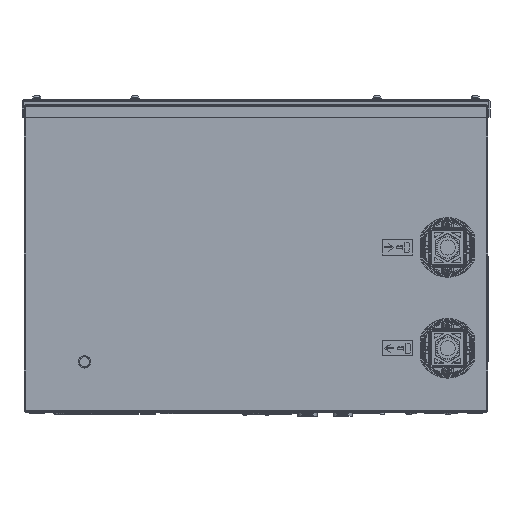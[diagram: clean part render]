
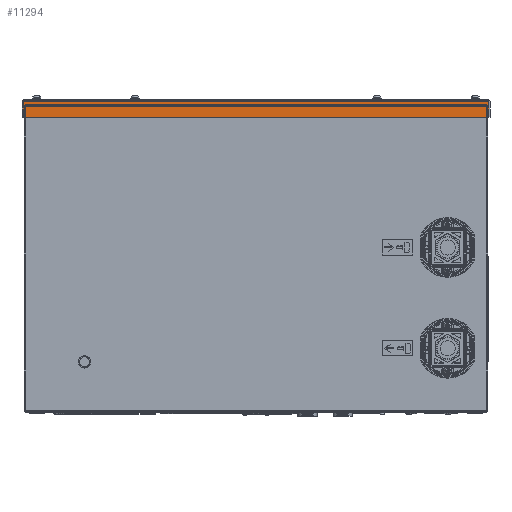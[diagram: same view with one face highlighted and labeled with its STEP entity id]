
A CAD part, front view. The second image highlights one B-rep face of the part: STEP entity #11294.
In plain terms, the highlighted planar face has unit normal (0, -1, 0) as drawn and (1, 0, 0) by its records, which use the part's own axes.
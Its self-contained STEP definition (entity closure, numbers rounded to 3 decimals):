
#652 = EDGE_CURVE ( 'NONE', #661, #660, #112255, .T. ) ;
#660 = VERTEX_POINT ( 'NONE', #112261 ) ;
#661 = VERTEX_POINT ( 'NONE', #112918 ) ;
#1267 = VERTEX_POINT ( 'NONE', #90262 ) ;
#1556 = EDGE_CURVE ( 'NONE', #1724, #1267, #76517, .T. ) ;
#1566 = EDGE_CURVE ( 'NONE', #660, #1724, #76711, .T. ) ;
#1724 = VERTEX_POINT ( 'NONE', #105931 ) ;
#10516 = ORIENTED_EDGE ( 'NONE', *, *, #10518, .T. ) ;
#10518 = EDGE_CURVE ( 'NONE', #661, #1267, #74423, .T. ) ;
#10721 = ORIENTED_EDGE ( 'NONE', *, *, #1566, .F. ) ;
#10816 = ORIENTED_EDGE ( 'NONE', *, *, #652, .F. ) ;
#10864 = ORIENTED_EDGE ( 'NONE', *, *, #1556, .F. ) ;
#11290 = EDGE_LOOP ( 'NONE', ( #10864, #10721, #10816, #10516 ) ) ;
#11294 = ADVANCED_FACE ( 'NONE', ( #77967 ), #77835, .F. ) ;
#74291 = VECTOR ( 'NONE', #74328, 1000. ) ;
#74328 = DIRECTION ( 'NONE',  ( 0., 0., -1. ) ) ;
#74423 = LINE ( 'NONE', #74435, #74291 ) ;
#74435 = CARTESIAN_POINT ( 'NONE',  ( 902., 2., 0. ) ) ;
#76267 = DIRECTION ( 'NONE',  ( 0., -1., 0. ) ) ;
#76269 = VECTOR ( 'NONE', #76267, 1000. ) ;
#76515 = CARTESIAN_POINT ( 'NONE',  ( 902., 9.75, -230.929 ) ) ;
#76517 = LINE ( 'NONE', #76515, #76269 ) ;
#76697 = DIRECTION ( 'NONE',  ( 0., 0., -1. ) ) ;
#76698 = VECTOR ( 'NONE', #76697, 1000. ) ;
#76701 = CARTESIAN_POINT ( 'NONE',  ( 902., 17.5, 0. ) ) ;
#76711 = LINE ( 'NONE', #76701, #76698 ) ;
#77722 = DIRECTION ( 'NONE',  ( 0., 0., 1. ) ) ;
#77723 = DIRECTION ( 'NONE',  ( -1., 0., 0. ) ) ;
#77724 = CARTESIAN_POINT ( 'NONE',  ( 902., 2., -230.929 ) ) ;
#77835 = PLANE ( 'NONE',  #77873 ) ;
#77873 = AXIS2_PLACEMENT_3D ( 'NONE', #77724, #77723, #77722 ) ;
#77967 = FACE_OUTER_BOUND ( 'NONE', #11290, .T. ) ;
#90262 = CARTESIAN_POINT ( 'NONE',  ( 902., 2., -230.929 ) ) ;
#105931 = CARTESIAN_POINT ( 'NONE',  ( 902., 17.5, -230.929 ) ) ;
#112255 = LINE ( 'NONE', #112434, #112316 ) ;
#112261 = CARTESIAN_POINT ( 'NONE',  ( 902., 17.5, 230.929 ) ) ;
#112316 = VECTOR ( 'NONE', #112924, 1000. ) ;
#112434 = CARTESIAN_POINT ( 'NONE',  ( 902., 9.75, 230.929 ) ) ;
#112918 = CARTESIAN_POINT ( 'NONE',  ( 902., 2., 230.929 ) ) ;
#112924 = DIRECTION ( 'NONE',  ( 0., 1., 0. ) ) ;
